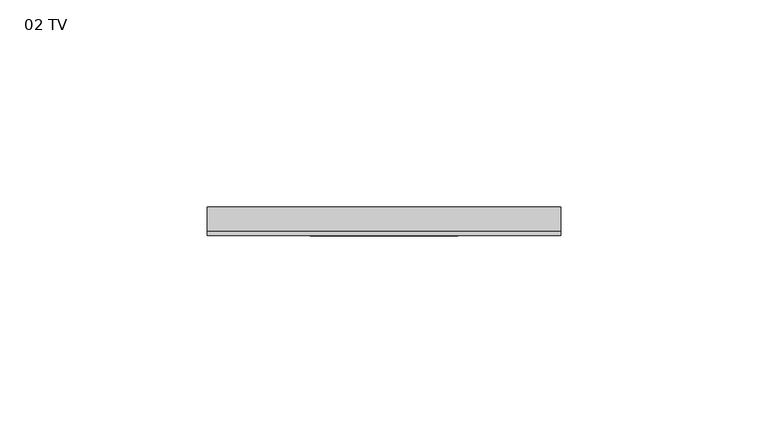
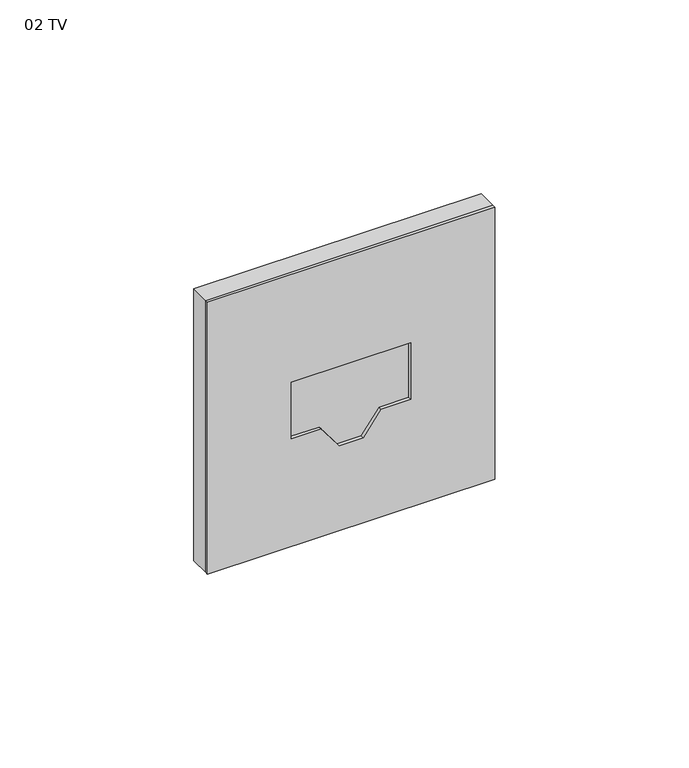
"""IFC4 building model written with IfcOpenShell, lengths in millimetres: proxy geometry, ZYR_08.01.02 Presa Simple : 02 TV."""

from ifc_helpers import new_model, si_unit, frame, origin, place, context, project, spatial, polyline, outline, extrude, source, transform, mapped, element, save


def proxy_02_tv_7a74edcd(model_context):
    return source(origin(), model_context, "Body", "SweptSolid", [
        extrude(outline(polyline([(42.75, 42.75), (42.75, -42.75), (-42.75, -42.75), (-42.75, 42.75), (42.75, 42.75)]), holes=[polyline([(8.90625, 17.8125), (-8.90625, 17.8125), (-8.90625, 8.90625), (-16.03125, 3.5625), (-16.03125, -3.5625), (-8.90625, -8.90625), (-8.90625, -17.8125), (8.90625, -17.8125), (8.90625, 17.8125)])]), frame((0.0, -7.0, 0.0), z_axis=(0.0, 1.0, 0.0), x_axis=(0.0, 0.0, 1.0)), (0.0, 0.0, 1.0), 1.0),
        extrude(outline(polyline([(42.75, -6.0), (-42.75, -6.0), (-42.75, 0.0), (42.75, 0.0), (42.75, -6.0)])), frame((0.0, 0.0, -42.75), z_axis=(0.0, 0.0, 1.0), x_axis=(1.0, 0.0, 0.0)), (0.0, 0.0, 1.0), 85.5),
    ])


if __name__ == "__main__":
    model = new_model("IFC4")
    model_context = context("Model", 3, world=origin())
    ifc_project = project(units=[si_unit("LENGTHUNIT", "METRE", prefix="MILLI")], contexts=[model_context])
    site = spatial("IfcSite", under=ifc_project)
    building = spatial("IfcBuilding", under=site)
    placement = place(None, origin())
    proxy_02_tv_shape = proxy_02_tv_7a74edcd(model_context)
    element("IfcBuildingElementProxy", 1, Name="ZYR_08.01.02 Presa Simple : 02 TV", ObjectType="ZYR_08.01.02 Presa Simple : 02 TV", at=placement, inside=building, context=model_context, shape_type="MappedRepresentation", body=[
        mapped(proxy_02_tv_shape, transform((0.0, 0.0, 0.0), x_axis=(1.0, 0.0, 0.0), y_axis=(0.0, 1.0, 0.0), z_axis=(0.0, 0.0, 1.0))),
    ])
    save(model, "model.ifc")
